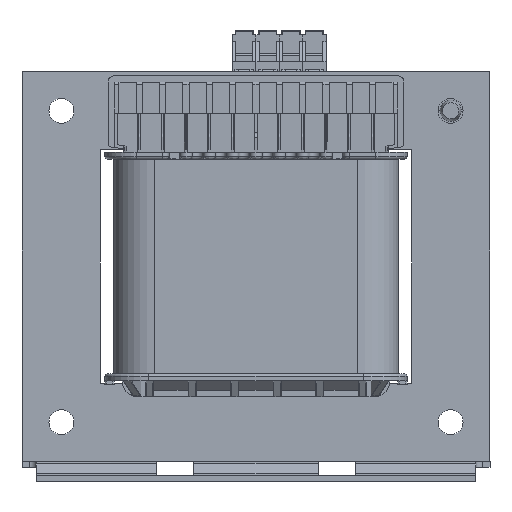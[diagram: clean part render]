
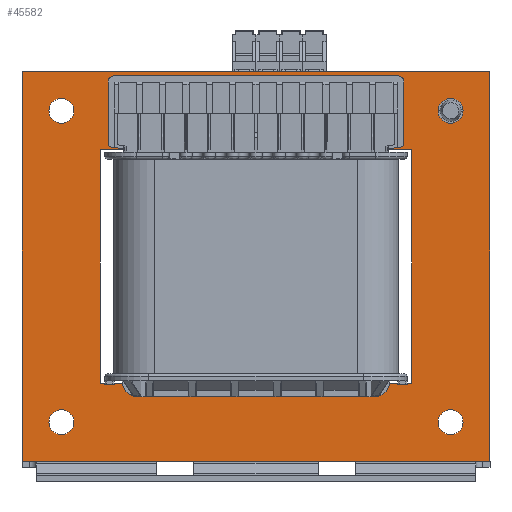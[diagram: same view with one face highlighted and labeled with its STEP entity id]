
A CAD part, front view. The second image highlights one B-rep face of the part: STEP entity #45582.
In plain terms, the highlighted planar face has unit normal (0, -1, 0).
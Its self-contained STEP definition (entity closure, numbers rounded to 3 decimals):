
#829=FACE_BOUND('',#5256,.T.);
#830=FACE_BOUND('',#5257,.T.);
#831=FACE_BOUND('',#5258,.T.);
#832=FACE_BOUND('',#5259,.T.);
#833=FACE_BOUND('',#5260,.T.);
#834=FACE_BOUND('',#5261,.T.);
#968=PLANE('',#48435);
#2750=FACE_OUTER_BOUND('',#5255,.T.);
#5255=EDGE_LOOP('',(#31547,#31548,#31549,#31550));
#5256=EDGE_LOOP('',(#31551));
#5257=EDGE_LOOP('',(#31552));
#5258=EDGE_LOOP('',(#31553));
#5259=EDGE_LOOP('',(#31554));
#5260=EDGE_LOOP('',(#31555,#31556,#31557,#31558));
#5261=EDGE_LOOP('',(#31559,#31560,#31561,#31562));
#7854=LINE('',#65148,#13365);
#7857=LINE('',#65154,#13368);
#7860=LINE('',#65160,#13371);
#7863=LINE('',#65164,#13374);
#7866=LINE('',#65172,#13377);
#7869=LINE('',#65178,#13380);
#7872=LINE('',#65184,#13383);
#7875=LINE('',#65188,#13386);
#7876=LINE('',#65192,#13387);
#7877=LINE('',#65194,#13388);
#7878=LINE('',#65196,#13389);
#7879=LINE('',#65197,#13390);
#13365=VECTOR('',#52255,10.);
#13368=VECTOR('',#52260,10.);
#13371=VECTOR('',#52265,10.);
#13374=VECTOR('',#52270,10.);
#13377=VECTOR('',#52275,10.);
#13380=VECTOR('',#52280,10.);
#13383=VECTOR('',#52285,10.);
#13386=VECTOR('',#52290,10.);
#13387=VECTOR('',#52293,10.);
#13388=VECTOR('',#52294,10.);
#13389=VECTOR('',#52295,10.);
#13390=VECTOR('',#52296,10.);
#18842=CIRCLE('',#48416,4.);
#18844=CIRCLE('',#48419,4.);
#18846=CIRCLE('',#48422,4.);
#18848=CIRCLE('',#48425,4.);
#19878=VERTEX_POINT('',#65118);
#19880=VERTEX_POINT('',#65124);
#19882=VERTEX_POINT('',#65130);
#19884=VERTEX_POINT('',#65136);
#19888=VERTEX_POINT('',#65145);
#19889=VERTEX_POINT('',#65147);
#19891=VERTEX_POINT('',#65153);
#19893=VERTEX_POINT('',#65159);
#19896=VERTEX_POINT('',#65169);
#19897=VERTEX_POINT('',#65171);
#19899=VERTEX_POINT('',#65177);
#19901=VERTEX_POINT('',#65183);
#19902=VERTEX_POINT('',#65190);
#19903=VERTEX_POINT('',#65191);
#19904=VERTEX_POINT('',#65193);
#19905=VERTEX_POINT('',#65195);
#24405=EDGE_CURVE('',#19878,#19878,#18842,.T.);
#24408=EDGE_CURVE('',#19880,#19880,#18844,.T.);
#24411=EDGE_CURVE('',#19882,#19882,#18846,.T.);
#24414=EDGE_CURVE('',#19884,#19884,#18848,.T.);
#24419=EDGE_CURVE('',#19889,#19888,#7854,.T.);
#24422=EDGE_CURVE('',#19891,#19889,#7857,.T.);
#24425=EDGE_CURVE('',#19893,#19891,#7860,.T.);
#24428=EDGE_CURVE('',#19888,#19893,#7863,.T.);
#24431=EDGE_CURVE('',#19897,#19896,#7866,.T.);
#24434=EDGE_CURVE('',#19899,#19897,#7869,.T.);
#24437=EDGE_CURVE('',#19901,#19899,#7872,.T.);
#24440=EDGE_CURVE('',#19896,#19901,#7875,.T.);
#24441=EDGE_CURVE('',#19902,#19903,#7876,.T.);
#24442=EDGE_CURVE('',#19904,#19902,#7877,.T.);
#24443=EDGE_CURVE('',#19905,#19904,#7878,.T.);
#24444=EDGE_CURVE('',#19903,#19905,#7879,.T.);
#31547=ORIENTED_EDGE('',*,*,#24441,.F.);
#31548=ORIENTED_EDGE('',*,*,#24442,.F.);
#31549=ORIENTED_EDGE('',*,*,#24443,.F.);
#31550=ORIENTED_EDGE('',*,*,#24444,.F.);
#31551=ORIENTED_EDGE('',*,*,#24405,.T.);
#31552=ORIENTED_EDGE('',*,*,#24408,.T.);
#31553=ORIENTED_EDGE('',*,*,#24411,.T.);
#31554=ORIENTED_EDGE('',*,*,#24414,.T.);
#31555=ORIENTED_EDGE('',*,*,#24419,.T.);
#31556=ORIENTED_EDGE('',*,*,#24428,.T.);
#31557=ORIENTED_EDGE('',*,*,#24425,.T.);
#31558=ORIENTED_EDGE('',*,*,#24422,.T.);
#31559=ORIENTED_EDGE('',*,*,#24431,.T.);
#31560=ORIENTED_EDGE('',*,*,#24440,.T.);
#31561=ORIENTED_EDGE('',*,*,#24437,.T.);
#31562=ORIENTED_EDGE('',*,*,#24434,.T.);
#45582=ADVANCED_FACE('',(#2750,#829,#830,#831,#832,#833,#834),#968,.F.);
#48416=AXIS2_PLACEMENT_3D('',#65119,#52225,#52226);
#48419=AXIS2_PLACEMENT_3D('',#65125,#52232,#52233);
#48422=AXIS2_PLACEMENT_3D('',#65131,#52239,#52240);
#48425=AXIS2_PLACEMENT_3D('',#65137,#52246,#52247);
#48435=AXIS2_PLACEMENT_3D('',#65189,#52291,#52292);
#52225=DIRECTION('center_axis',(0.,1.,0.));
#52226=DIRECTION('ref_axis',(1.,0.,0.));
#52232=DIRECTION('center_axis',(0.,1.,0.));
#52233=DIRECTION('ref_axis',(1.,0.,0.));
#52239=DIRECTION('center_axis',(0.,1.,0.));
#52240=DIRECTION('ref_axis',(1.,0.,0.));
#52246=DIRECTION('center_axis',(0.,1.,0.));
#52247=DIRECTION('ref_axis',(1.,0.,0.));
#52255=DIRECTION('',(0.,0.,1.));
#52260=DIRECTION('',(-1.,0.,0.));
#52265=DIRECTION('',(0.,0.,-1.));
#52270=DIRECTION('',(1.,0.,0.));
#52275=DIRECTION('',(0.,0.,1.));
#52280=DIRECTION('',(-1.,0.,0.));
#52285=DIRECTION('',(0.,0.,-1.));
#52290=DIRECTION('',(1.,0.,0.));
#52291=DIRECTION('center_axis',(0.,1.,0.));
#52292=DIRECTION('ref_axis',(0.,0.,1.));
#52293=DIRECTION('',(0.,0.,-1.));
#52294=DIRECTION('',(1.,0.,0.));
#52295=DIRECTION('',(0.,0.,1.));
#52296=DIRECTION('',(-1.,0.,0.));
#65118=CARTESIAN_POINT('',(-66.5,-24.8,-50.));
#65119=CARTESIAN_POINT('Origin',(-62.5,-24.8,-50.));
#65124=CARTESIAN_POINT('',(58.5,-24.8,-50.));
#65125=CARTESIAN_POINT('Origin',(62.5,-24.8,-50.));
#65130=CARTESIAN_POINT('',(58.5,-24.8,50.));
#65131=CARTESIAN_POINT('Origin',(62.5,-24.8,50.));
#65136=CARTESIAN_POINT('',(-66.5,-24.8,50.));
#65137=CARTESIAN_POINT('Origin',(-62.5,-24.8,50.));
#65145=CARTESIAN_POINT('',(-50.,-24.8,37.5));
#65147=CARTESIAN_POINT('',(-50.,-24.8,-37.5));
#65148=CARTESIAN_POINT('',(-50.,-24.8,18.75));
#65153=CARTESIAN_POINT('',(-25.,-24.8,-37.5));
#65154=CARTESIAN_POINT('',(-25.,-24.8,-37.5));
#65159=CARTESIAN_POINT('',(-25.,-24.8,37.5));
#65160=CARTESIAN_POINT('',(-25.,-24.8,-18.75));
#65164=CARTESIAN_POINT('',(-12.5,-24.8,37.5));
#65169=CARTESIAN_POINT('',(25.,-24.8,37.5));
#65171=CARTESIAN_POINT('',(25.,-24.8,-37.5));
#65172=CARTESIAN_POINT('',(25.,-24.8,18.75));
#65177=CARTESIAN_POINT('',(50.,-24.8,-37.5));
#65178=CARTESIAN_POINT('',(12.5,-24.8,-37.5));
#65183=CARTESIAN_POINT('',(50.,-24.8,37.5));
#65184=CARTESIAN_POINT('',(50.,-24.8,-18.75));
#65188=CARTESIAN_POINT('',(25.,-24.8,37.5));
#65189=CARTESIAN_POINT('Origin',(0.,-24.8,0.));
#65190=CARTESIAN_POINT('',(75.,-24.8,62.5));
#65191=CARTESIAN_POINT('',(75.,-24.8,-62.5));
#65192=CARTESIAN_POINT('',(75.,-24.8,-62.5));
#65193=CARTESIAN_POINT('',(-75.,-24.8,62.5));
#65194=CARTESIAN_POINT('',(75.,-24.8,62.5));
#65195=CARTESIAN_POINT('',(-75.,-24.8,-62.5));
#65196=CARTESIAN_POINT('',(-75.,-24.8,62.5));
#65197=CARTESIAN_POINT('',(-75.,-24.8,-62.5));
